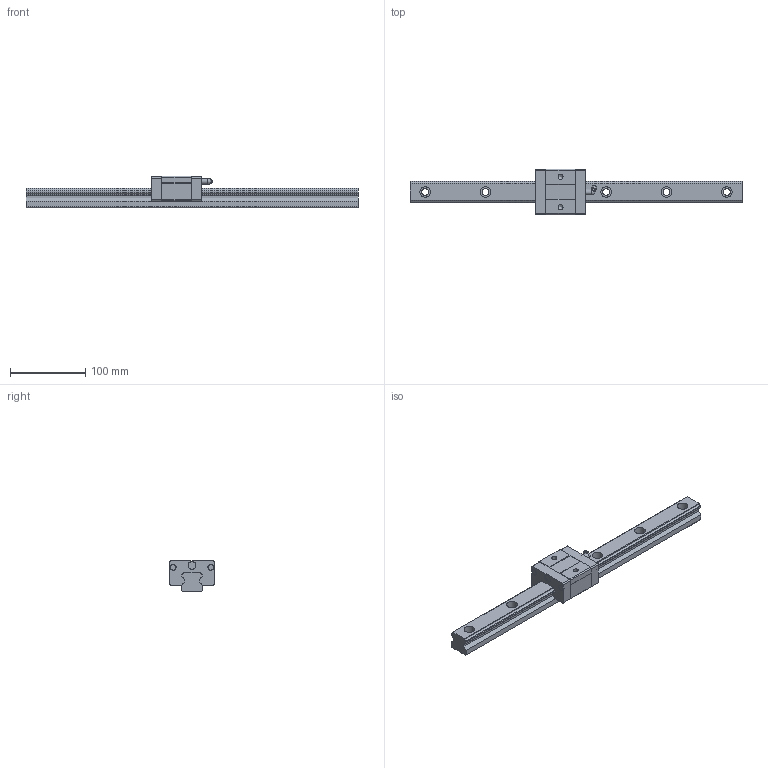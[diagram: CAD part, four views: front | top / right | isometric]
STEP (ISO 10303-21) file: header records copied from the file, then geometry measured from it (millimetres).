
FILE_DESCRIPTION((''),'2;1');
FILE_NAME('D:\製品 (図面)\カタログ用3D\リニアガイド関連\STEP形式\LGS-S\LGS30S.stp','2010-06-02T16:04:11',('Tsuchiya'),(''),'Autodesk Inventor 10','Autodesk Inventor 10','');
FILE_SCHEMA(('AUTOMOTIVE_DESIGN { 1 0 10303 214 1 1 1 1 }'));
Length unit declared in the file: millimetre
Products named in the file (3): LGS30S; LGS30S1; LGS30S2
Assembly tree (2 placements, depth 2):
  LGS30S
    LGS30S1
    LGS30S2
Bounding box: 440 x 60 x 42 mm (x, y, z)
Volume: 368242.1 mm3; surface area: 73438.8 mm2
Topology: 2 solids, 2 shells, 147 faces, 379 edges, 250 vertices
Faces by surface type: plane 80, bspline 32, cylinder 30, sphere 3, cone 2
Full cylindrical faces by diameter (mm): 7 x1, 7.5 x2, 7.7 x1, 8 x2, 10.5 x1
Entity records: 4772 total; most frequent: CARTESIAN_POINT 1305, DIRECTION 680, ORIENTED_EDGE 668, EDGE_CURVE 334, VERTEX_POINT 242, AXIS2_PLACEMENT_3D 230, VECTOR 220, LINE 220
